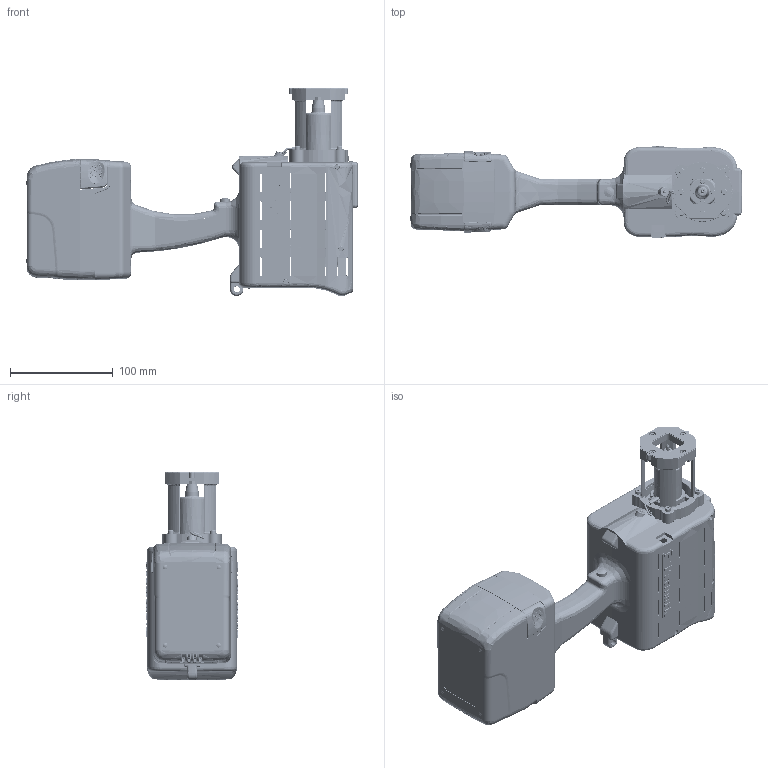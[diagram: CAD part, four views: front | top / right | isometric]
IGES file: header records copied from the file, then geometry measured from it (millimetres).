
Start section: SolidWorks IGES file using analytic representation for surfaces
Global section: file name: C:\東京彫刻 Solidworks Data\PM関係\PatMark\外部資料用\外観図(HP用)\SW_DATA\Patmark-mini_180611 HP用 3D Battery type.IGS; native system: SolidWorks 2016; preprocessor: SolidWorks 2016; author: hp-cp3; date: 181205.152152; units: millimetre
Bounding box: 323 x 89.2 x 202.57 mm (x, y, z)
Surface area: 394187.9 mm2 (no closed solid volume)
Topology: 0 solids, 0 shells, 6610 faces, 73765 edges, 73551 vertices
Faces by surface type: bspline 4096, revolution 2514
